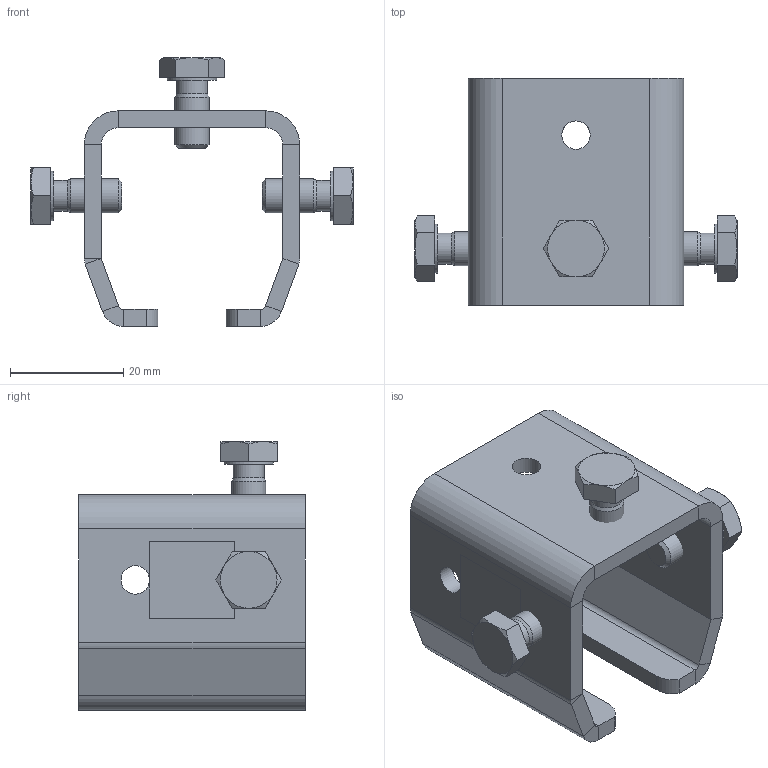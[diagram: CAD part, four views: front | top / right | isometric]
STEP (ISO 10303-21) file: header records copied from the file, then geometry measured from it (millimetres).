
FILE_DESCRIPTION(/* description */ ('Schweissmuffe Nr.0 Unverzinkt'),/* implementation_level */ '2;1');
FILE_NAME(/* name */ 'D:\Public\STP\010330488-TP.stp',/* time_stamp */ '2020-05-13T14:00:06+02:00',/* author */ ('O. Loukota'),/* organization */ (''),/* preprocessor_version */ 'ST-DEVELOPER v17.2',/* originating_system */ 'Autodesk Inventor 2019',/* authorisation */ '');
FILE_SCHEMA (('AUTOMOTIVE_DESIGN { 1 0 10303 214 3 1 1 }'));
Length unit declared in the file: millimetre
Products named in the file (3): 010335208; 335140000; DIN EN ISO 4017 - M6  x 12
Assembly tree (4 placements, depth 2):
  010335208
    335140000
    DIN EN ISO 4017 - M6  x 12  x3
Bounding box: 56.77 x 40 x 47.39 mm (x, y, z)
Volume: 15642.2 mm3; surface area: 11899.6 mm2
Topology: 4 solids, 4 shells, 139 faces, 319 edges, 192 vertices
Faces by surface type: plane 84, cylinder 31, cone 24
Full cylindrical faces by diameter (mm): 4.917 x3, 5 x3, 5.459 x3, 6 x3, 8.7 x3
Entity records: 2823 total; most frequent: DIRECTION 487, CARTESIAN_POINT 481, ORIENTED_EDGE 446, EDGE_CURVE 223, AXIS2_PLACEMENT_3D 172, LINE 143, VECTOR 143, VERTEX_POINT 130
